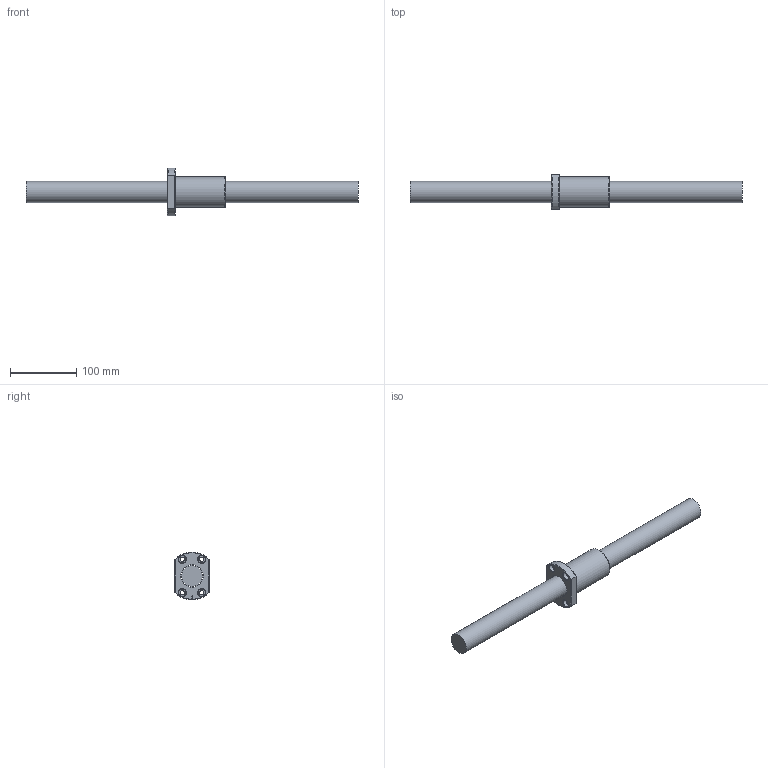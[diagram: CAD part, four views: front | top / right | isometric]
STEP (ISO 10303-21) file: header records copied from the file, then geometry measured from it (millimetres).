
FILE_DESCRIPTION (( 'STEP AP203' ), '1' );
FILE_NAME ('OFI03205D-4.step', '2024-05-17T03:23:22', ( '' ), ( '' ), 'SwSTEP 2.0', 'SolidWorks 2022', '' );
FILE_SCHEMA (( 'CONFIG_CONTROL_DESIGN' ));
Length unit declared in the file: millimetre
Products named in the file (1): OFI03205D-4
Bounding box: 500 x 52 x 72 mm (x, y, z)
Volume: 484139.9 mm3; surface area: 80676.8 mm2
Topology: 2 solids, 2 shells, 57 faces, 145 edges, 93 vertices
Faces by surface type: cylinder 21, plane 16, cone 9, bspline 6, torus 5
Full cylindrical faces by diameter (mm): 4 x1, 6.5 x4, 7 x5, 11 x4, 32 x1, 34.1 x1, 46 x1
Entity records: 3806 total; most frequent: CARTESIAN_POINT 2684, DIRECTION 200, ORIENTED_EDGE 192, EDGE_CURVE 96, AXIS2_PLACEMENT_3D 92, EDGE_LOOP 90, VERTEX_POINT 74, FACE_OUTER_BOUND 67
